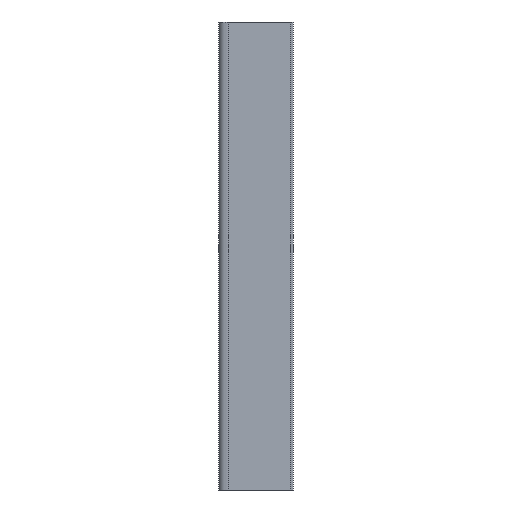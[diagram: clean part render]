
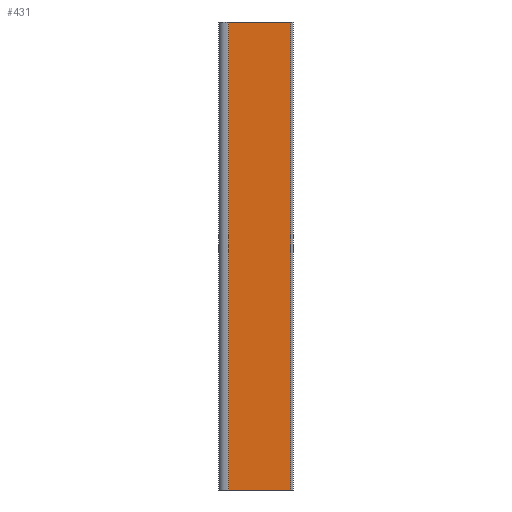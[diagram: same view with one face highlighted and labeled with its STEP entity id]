
A CAD part, left-side view. The second image highlights one B-rep face of the part: STEP entity #431.
In plain terms, the highlighted planar face has unit normal (-1, 0, 0).
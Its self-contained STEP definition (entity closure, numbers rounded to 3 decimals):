
#138 = PLANE ( 'NONE',  #851 ) ;
#141 = CARTESIAN_POINT ( 'NONE',  ( -8.945, -3.6, 568. ) ) ;
#147 = DIRECTION ( 'NONE',  ( 1., 0., 0. ) ) ;
#148 = DIRECTION ( 'NONE',  ( 0., 1., 0. ) ) ;
#196 = VECTOR ( 'NONE', #1045, 1000. ) ;
#197 = LINE ( 'NONE', #1044, #196 ) ;
#228 = ORIENTED_EDGE ( 'NONE', *, *, #755, .F. ) ;
#249 = ORIENTED_EDGE ( 'NONE', *, *, #817, .T. ) ;
#259 = ORIENTED_EDGE ( 'NONE', *, *, #765, .F. ) ;
#266 = ORIENTED_EDGE ( 'NONE', *, *, #730, .T. ) ;
#357 = VECTOR ( 'NONE', #967, 1000. ) ;
#358 = LINE ( 'NONE', #966, #357 ) ;
#373 = VECTOR ( 'NONE', #949, 1000. ) ;
#431 = ADVANCED_FACE ( 'NONE', ( #652 ), #138, .F. ) ;
#518 = VERTEX_POINT ( 'NONE', #1102 ) ;
#521 = VERTEX_POINT ( 'NONE', #1110 ) ;
#522 = VERTEX_POINT ( 'NONE', #1111 ) ;
#525 = VERTEX_POINT ( 'NONE', #1114 ) ;
#585 = VECTOR ( 'NONE', #1261, 1000. ) ;
#586 = LINE ( 'NONE', #1260, #585 ) ;
#634 = LINE ( 'NONE', #946, #373 ) ;
#652 = FACE_OUTER_BOUND ( 'NONE', #1302, .T. ) ;
#730 = EDGE_CURVE ( 'NONE', #521, #525, #586, .T. ) ;
#755 = EDGE_CURVE ( 'NONE', #518, #522, #634, .T. ) ;
#765 = EDGE_CURVE ( 'NONE', #521, #518, #358, .T. ) ;
#817 = EDGE_CURVE ( 'NONE', #525, #522, #197, .T. ) ;
#851 = AXIS2_PLACEMENT_3D ( 'NONE', #141, #147, #148 ) ;
#946 = CARTESIAN_POINT ( 'NONE',  ( -8.945, -78.967, 568. ) ) ;
#949 = DIRECTION ( 'NONE',  ( 0., 0., -1. ) ) ;
#966 = CARTESIAN_POINT ( 'NONE',  ( -8.945, -3.6, 568. ) ) ;
#967 = DIRECTION ( 'NONE',  ( 0., -1., 0. ) ) ;
#1044 = CARTESIAN_POINT ( 'NONE',  ( -8.945, -3.6, 0. ) ) ;
#1045 = DIRECTION ( 'NONE',  ( 0., -1., 0. ) ) ;
#1102 = CARTESIAN_POINT ( 'NONE',  ( -8.945, -78.967, 568. ) ) ;
#1110 = CARTESIAN_POINT ( 'NONE',  ( -8.945, -3.6, 568. ) ) ;
#1111 = CARTESIAN_POINT ( 'NONE',  ( -8.945, -78.967, 0. ) ) ;
#1114 = CARTESIAN_POINT ( 'NONE',  ( -8.945, -3.6, 0. ) ) ;
#1260 = CARTESIAN_POINT ( 'NONE',  ( -8.945, -3.6, 568. ) ) ;
#1261 = DIRECTION ( 'NONE',  ( 0., 0., -1. ) ) ;
#1302 = EDGE_LOOP ( 'NONE', ( #249, #228, #259, #266 ) ) ;
